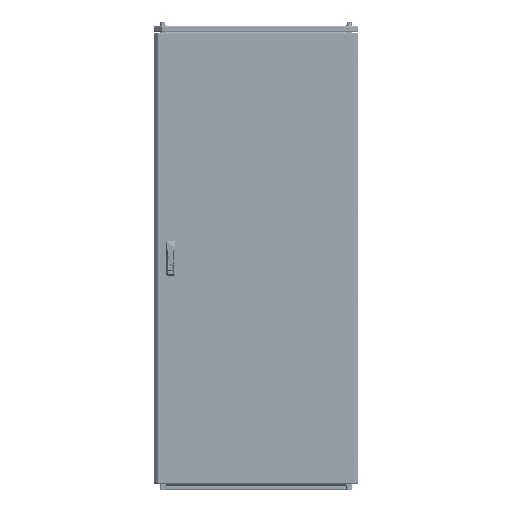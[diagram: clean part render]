
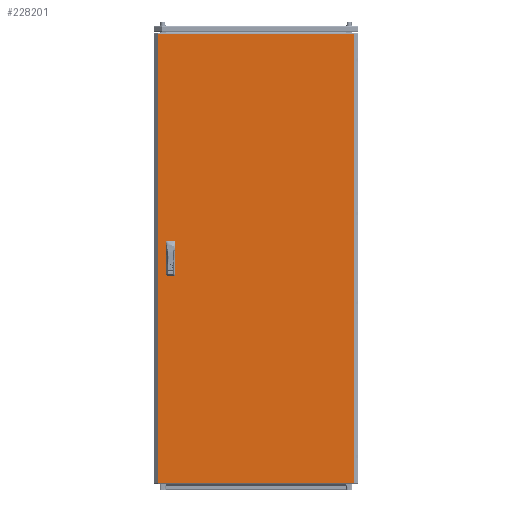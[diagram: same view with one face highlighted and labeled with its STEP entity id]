
A CAD part, top view. The second image highlights one B-rep face of the part: STEP entity #228201.
In plain terms, the highlighted planar face has unit normal (0, 0, 1).
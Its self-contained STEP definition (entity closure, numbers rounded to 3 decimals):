
#4418 = CARTESIAN_POINT ( 'NONE',  ( -342.5, -62.5, 0. ) ) ;
#5956 = ORIENTED_EDGE ( 'NONE', *, *, #238943, .F. ) ;
#7068 = CARTESIAN_POINT ( 'NONE',  ( -317.5, -62.5, 0. ) ) ;
#7146 = CARTESIAN_POINT ( 'NONE',  ( 377.875, -869.5, 0. ) ) ;
#10363 = CARTESIAN_POINT ( 'NONE',  ( -342.5, -12.5, 0. ) ) ;
#10620 = LINE ( 'NONE', #141934, #244138 ) ;
#11447 = DIRECTION ( 'NONE',  ( -1., 0., 0. ) ) ;
#11517 = CARTESIAN_POINT ( 'NONE',  ( -342.5, -12.5, 0. ) ) ;
#12510 = LINE ( 'NONE', #241299, #14950 ) ;
#12826 = DIRECTION ( 'NONE',  ( -1., 0., 0. ) ) ;
#14950 = VECTOR ( 'NONE', #128752, 1000. ) ;
#15527 = LINE ( 'NONE', #166858, #162184 ) ;
#17979 = EDGE_LOOP ( 'NONE', ( #123604, #5956, #165460, #210015 ) ) ;
#18069 = CARTESIAN_POINT ( 'NONE',  ( -377.875, 869.5, 0. ) ) ;
#21827 = CARTESIAN_POINT ( 'NONE',  ( -317.5, -62.5, 0. ) ) ;
#24876 = DIRECTION ( 'NONE',  ( 1., 0., 0. ) ) ;
#32417 = ORIENTED_EDGE ( 'NONE', *, *, #232117, .T. ) ;
#35767 = CARTESIAN_POINT ( 'NONE',  ( -377.875, -869.5, 0. ) ) ;
#37226 = VERTEX_POINT ( 'NONE', #161387 ) ;
#41308 = CARTESIAN_POINT ( 'NONE',  ( -317.5, 12.5, 0. ) ) ;
#46936 = DIRECTION ( 'NONE',  ( -1., 0., 0. ) ) ;
#48182 = VECTOR ( 'NONE', #185231, 1000. ) ;
#56314 = EDGE_CURVE ( 'NONE', #240295, #88250, #138384, .T. ) ;
#61956 = VERTEX_POINT ( 'NONE', #41308 ) ;
#65559 = VECTOR ( 'NONE', #234715, 1000. ) ;
#79322 = VERTEX_POINT ( 'NONE', #234430 ) ;
#80653 = ORIENTED_EDGE ( 'NONE', *, *, #140550, .T. ) ;
#81032 = LINE ( 'NONE', #233474, #65559 ) ;
#83390 = DIRECTION ( 'NONE',  ( 0., 1., 0. ) ) ;
#86092 = EDGE_CURVE ( 'NONE', #61956, #79322, #202892, .T. ) ;
#88250 = VERTEX_POINT ( 'NONE', #21827 ) ;
#89963 = AXIS2_PLACEMENT_3D ( 'NONE', #241490, #124043, #11447 ) ;
#93938 = EDGE_CURVE ( 'NONE', #128681, #235878, #12510, .T. ) ;
#94098 = ORIENTED_EDGE ( 'NONE', *, *, #86092, .F. ) ;
#96108 = VECTOR ( 'NONE', #103380, 1000. ) ;
#97532 = EDGE_LOOP ( 'NONE', ( #137417, #94098, #225120, #208352 ) ) ;
#100530 = VERTEX_POINT ( 'NONE', #188622 ) ;
#102785 = ORIENTED_EDGE ( 'NONE', *, *, #170485, .T. ) ;
#103380 = DIRECTION ( 'NONE',  ( 1., 0., 0. ) ) ;
#105468 = CARTESIAN_POINT ( 'NONE',  ( -317.5, 12.5, 0. ) ) ;
#107098 = VECTOR ( 'NONE', #145402, 1000. ) ;
#111895 = VERTEX_POINT ( 'NONE', #137487 ) ;
#119444 = DIRECTION ( 'NONE',  ( 0., -1., 0. ) ) ;
#121446 = VERTEX_POINT ( 'NONE', #11517 ) ;
#123604 = ORIENTED_EDGE ( 'NONE', *, *, #226285, .F. ) ;
#124043 = DIRECTION ( 'NONE',  ( 0., 0., -1. ) ) ;
#125838 = CARTESIAN_POINT ( 'NONE',  ( -342.5, -62.5, 0. ) ) ;
#128359 = EDGE_CURVE ( 'NONE', #134384, #191279, #81032, .T. ) ;
#128681 = VERTEX_POINT ( 'NONE', #35767 ) ;
#128752 = DIRECTION ( 'NONE',  ( 1., 0., 0. ) ) ;
#132141 = VECTOR ( 'NONE', #83390, 1000. ) ;
#134384 = VERTEX_POINT ( 'NONE', #214377 ) ;
#137417 = ORIENTED_EDGE ( 'NONE', *, *, #203956, .F. ) ;
#137487 = CARTESIAN_POINT ( 'NONE',  ( 377.875, 869.5, 0. ) ) ;
#138384 = LINE ( 'NONE', #214638, #96108 ) ;
#140145 = EDGE_CURVE ( 'NONE', #121446, #240295, #198144, .T. ) ;
#140550 = EDGE_CURVE ( 'NONE', #235878, #111895, #222778, .T. ) ;
#141934 = CARTESIAN_POINT ( 'NONE',  ( -342.5, 62.5, 0. ) ) ;
#144013 = FACE_BOUND ( 'NONE', #97532, .T. ) ;
#144062 = CARTESIAN_POINT ( 'NONE',  ( 377.875, -869.5, 0. ) ) ;
#145402 = DIRECTION ( 'NONE',  ( 0., 1., 0. ) ) ;
#146463 = PLANE ( 'NONE',  #89963 ) ;
#148090 = DIRECTION ( 'NONE',  ( 0., -1., 0. ) ) ;
#148877 = EDGE_CURVE ( 'NONE', #191279, #61956, #159879, .T. ) ;
#151547 = CARTESIAN_POINT ( 'NONE',  ( -342.5, 12.5, 0. ) ) ;
#153578 = VECTOR ( 'NONE', #12826, 1000. ) ;
#159879 = LINE ( 'NONE', #151547, #241735 ) ;
#161387 = CARTESIAN_POINT ( 'NONE',  ( -317.5, -12.5, 0. ) ) ;
#161677 = LINE ( 'NONE', #10363, #153578 ) ;
#162184 = VECTOR ( 'NONE', #148090, 1000. ) ;
#163708 = EDGE_LOOP ( 'NONE', ( #80653, #32417, #102785, #198779 ) ) ;
#165460 = ORIENTED_EDGE ( 'NONE', *, *, #56314, .F. ) ;
#166858 = CARTESIAN_POINT ( 'NONE',  ( -377.875, -869.5, 0. ) ) ;
#170485 = EDGE_CURVE ( 'NONE', #100530, #128681, #15527, .T. ) ;
#170604 = LINE ( 'NONE', #18069, #242294 ) ;
#173288 = CARTESIAN_POINT ( 'NONE',  ( -342.5, 12.5, 0. ) ) ;
#178357 = LINE ( 'NONE', #7068, #132141 ) ;
#179039 = FACE_BOUND ( 'NONE', #17979, .T. ) ;
#185231 = DIRECTION ( 'NONE',  ( 0., 1., 0. ) ) ;
#188622 = CARTESIAN_POINT ( 'NONE',  ( -377.875, 869.5, 0. ) ) ;
#191279 = VERTEX_POINT ( 'NONE', #173288 ) ;
#198144 = LINE ( 'NONE', #4418, #235524 ) ;
#198779 = ORIENTED_EDGE ( 'NONE', *, *, #93938, .T. ) ;
#202892 = LINE ( 'NONE', #105468, #107098 ) ;
#203956 = EDGE_CURVE ( 'NONE', #79322, #134384, #10620, .T. ) ;
#208114 = DIRECTION ( 'NONE',  ( -1., 0., 0. ) ) ;
#208352 = ORIENTED_EDGE ( 'NONE', *, *, #128359, .F. ) ;
#210015 = ORIENTED_EDGE ( 'NONE', *, *, #140145, .F. ) ;
#214377 = CARTESIAN_POINT ( 'NONE',  ( -342.5, 62.5, 0. ) ) ;
#214638 = CARTESIAN_POINT ( 'NONE',  ( -342.5, -62.5, 0. ) ) ;
#220274 = FACE_OUTER_BOUND ( 'NONE', #163708, .T. ) ;
#222778 = LINE ( 'NONE', #144062, #48182 ) ;
#225120 = ORIENTED_EDGE ( 'NONE', *, *, #148877, .F. ) ;
#226285 = EDGE_CURVE ( 'NONE', #37226, #121446, #161677, .T. ) ;
#228201 = ADVANCED_FACE ( 'NONE', ( #144013, #179039, #220274 ), #146463, .F. ) ;
#232117 = EDGE_CURVE ( 'NONE', #111895, #100530, #170604, .T. ) ;
#233474 = CARTESIAN_POINT ( 'NONE',  ( -342.5, 12.5, 0. ) ) ;
#234430 = CARTESIAN_POINT ( 'NONE',  ( -317.5, 62.5, 0. ) ) ;
#234715 = DIRECTION ( 'NONE',  ( 0., -1., 0. ) ) ;
#235524 = VECTOR ( 'NONE', #119444, 1000. ) ;
#235878 = VERTEX_POINT ( 'NONE', #7146 ) ;
#238943 = EDGE_CURVE ( 'NONE', #88250, #37226, #178357, .T. ) ;
#240295 = VERTEX_POINT ( 'NONE', #125838 ) ;
#241299 = CARTESIAN_POINT ( 'NONE',  ( -377.875, -869.5, 0. ) ) ;
#241490 = CARTESIAN_POINT ( 'NONE',  ( 0., 0., 0. ) ) ;
#241735 = VECTOR ( 'NONE', #24876, 1000. ) ;
#242294 = VECTOR ( 'NONE', #208114, 1000. ) ;
#244138 = VECTOR ( 'NONE', #46936, 1000. ) ;
